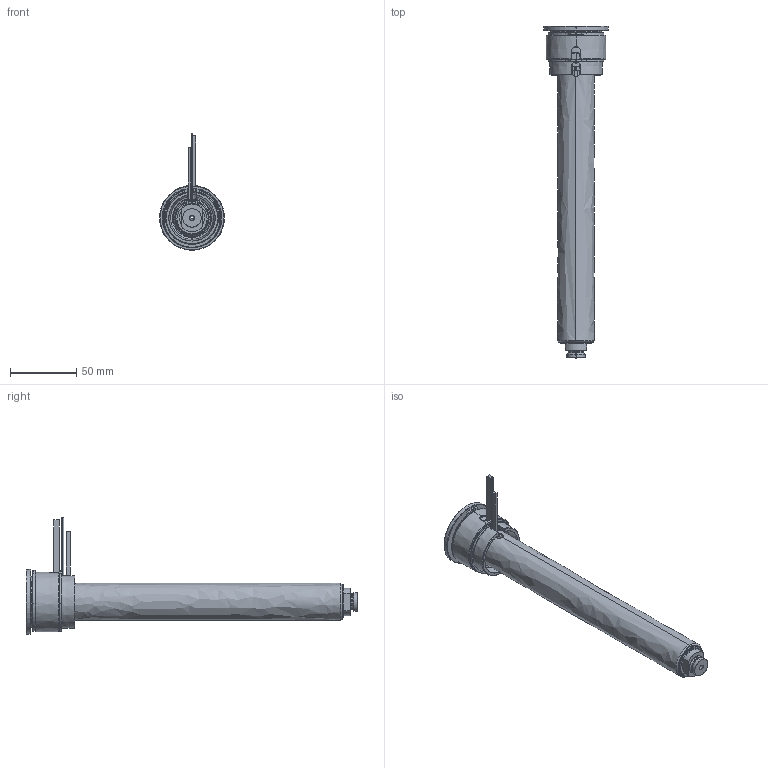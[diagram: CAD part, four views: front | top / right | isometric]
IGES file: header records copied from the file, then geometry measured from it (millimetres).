
Start section: SolidWorks IGES file using analytic representation for surfaces
Global section: file name: C:\Documents and Settings\ws-20\Desktop\TEM\UGBE4505-S-A-5 [Ød-2.0 P-0 ØC-09].IGS; native system: SolidWorks 2012; preprocessor: SolidWorks 2012; author: ws-20; date: 120412.153714; units: millimetre
Bounding box: 49 x 251 x 88.15 mm (x, y, z)
Surface area: 83911.2 mm2 (no closed solid volume)
Topology: 0 solids, 0 shells, 165 faces, 3141 edges, 3141 vertices
Faces by surface type: revolution 104, bspline 61
